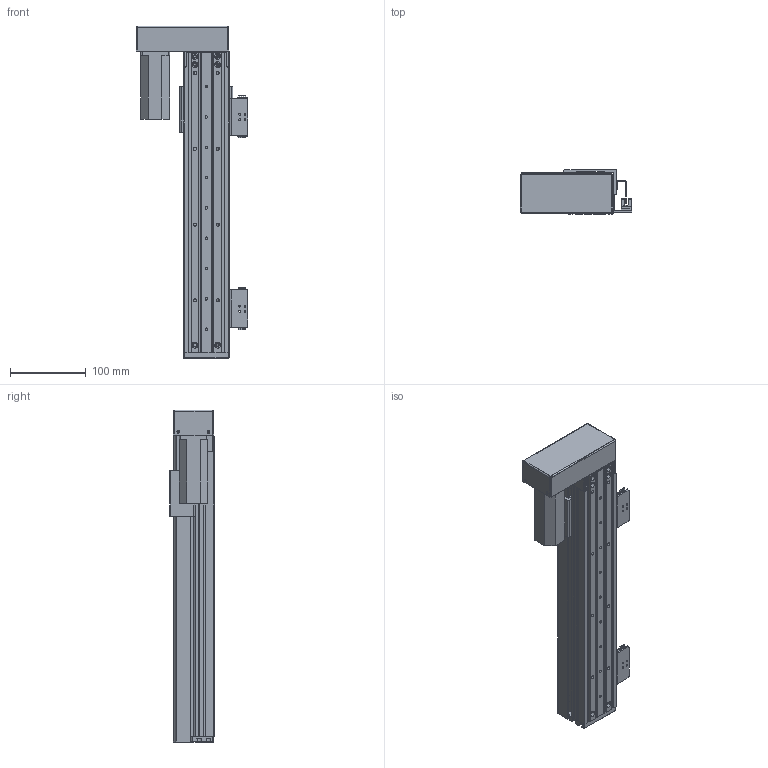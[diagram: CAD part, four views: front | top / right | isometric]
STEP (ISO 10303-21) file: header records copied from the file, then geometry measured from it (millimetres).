
FILE_DESCRIPTION (( 'STEP AP203' ), '1' );
FILE_NAME ('RY60FB-L1210-300-LK.SLDASM_250.step', '2021-02-23T01:00:49', ( '盈信电脑' ), ( '东莞市道滘镇水果街19号' ), 'SwSTEP 2.0', 'SolidWorks 2012', '' );
FILE_SCHEMA (( 'CONFIG_CONTROL_DESIGN' ));
Length unit declared in the file: millimetre
Products named in the file (14): RY60FB-L1210-300-LK.SLDASM_250; 覜茼ん674; RY60FB-674嫖萇耀輸; RY80俋离覜茼え; RY60FB-感应器674光电安装座; RY60FB-左右折电机安装板; RY60FB-蛌殏萇儂欶; RY60FB转折电机端支撑座; 侂狟100W; RY60FB-蛌殏奻裔-300-LK_250; 滅袉蝶18-10; RY60FB綴裔啣; RY60FB-臏賑輸; RY60FB-蛌殏菁釱-300-LK_250
Assembly tree (18 placements, depth 3):
  RY60FB-L1210-300-LK.SLDASM_250
    RY60FB-蛌殏菁釱-300-LK_250
    RY60FB-臏賑輸
    滅袉蝶18-10  x4
    RY60FB-蛌殏奻裔-300-LK_250
    侂狟100W
    RY60FB綴裔啣
    RY60FB转折电机端支撑座
    RY60FB-左右折电机安装板
    RY60FB-蛌殏萇儂欶
    RY60FB-674嫖萇耀輸  x2
      RY60FB-感应器674光电安装座
      覜茼ん674
    RY80俋离覜茼え
Bounding box: 147.75 x 58.5 x 438 mm (x, y, z)
Volume: 678609.2 mm3; surface area: 366494.2 mm2
Topology: 19 solids, 19 shells, 1143 faces, 3104 edges, 1978 vertices
Faces by surface type: plane 591, cylinder 447, cone 97, bspline 8
Entity records: 30680 total; most frequent: CARTESIAN_POINT 6018, DIRECTION 4850, ORIENTED_EDGE 4760, EDGE_CURVE 2380, AXIS2_PLACEMENT_3D 1684, VERTEX_POINT 1540, LINE 1482, VECTOR 1482
